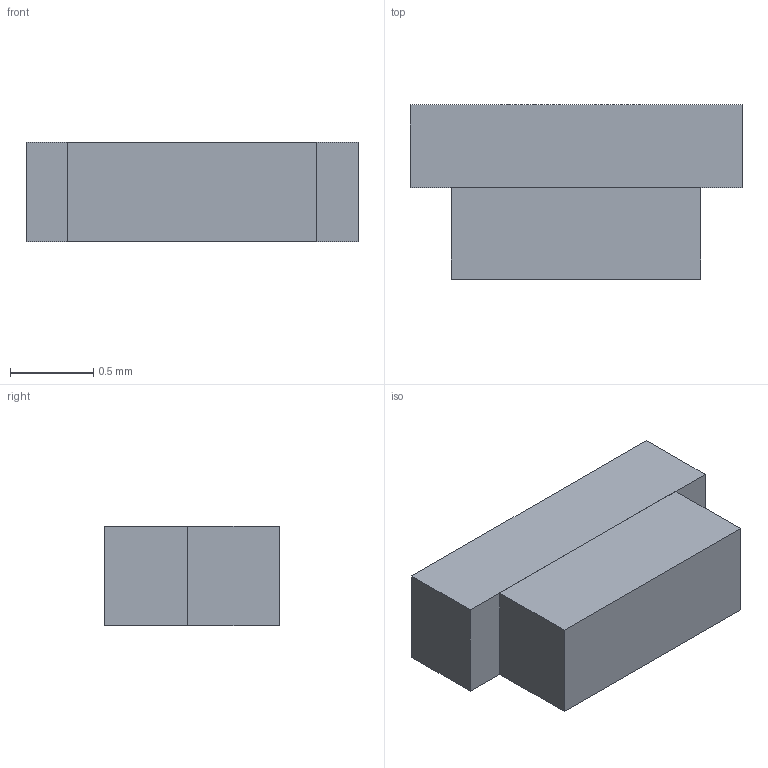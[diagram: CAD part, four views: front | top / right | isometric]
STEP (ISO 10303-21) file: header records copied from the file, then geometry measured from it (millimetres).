
FILE_DESCRIPTION(('Open CASCADE Model'),'2;1');
FILE_NAME('Open CASCADE Shape Model','2026-09-07T01:16:41',('Author'),( 'Open CASCADE'),'Open CASCADE STEP processor 7.9','Open CASCADE 7.9' ,'Unknown');
FILE_SCHEMA(('AUTOMOTIVE_DESIGN { 1 0 10303 214 1 1 1 1 }'));
Length unit declared in the file: millimetre
Products named in the file (3): Kingbright_APBA2006_envelope; body_0; body_1
Assembly tree (2 placements, depth 2):
  Kingbright_APBA2006_envelope
    body_0
    body_1
Bounding box: 2 x 1.05 x 0.6 mm (x, y, z)
Volume: 1.1 mm3; surface area: 9.1 mm2
Topology: 2 solids, 2 shells, 12 faces, 24 edges, 16 vertices
Faces by surface type: plane 12
Entity records: 682 total; most frequent: CARTESIAN_POINT 103, DIRECTION 102, LINE 72, VECTOR 72, ORIENTED_EDGE 48, PCURVE 48, DEFINITIONAL_REPRESENTATION 48, EDGE_CURVE 24
